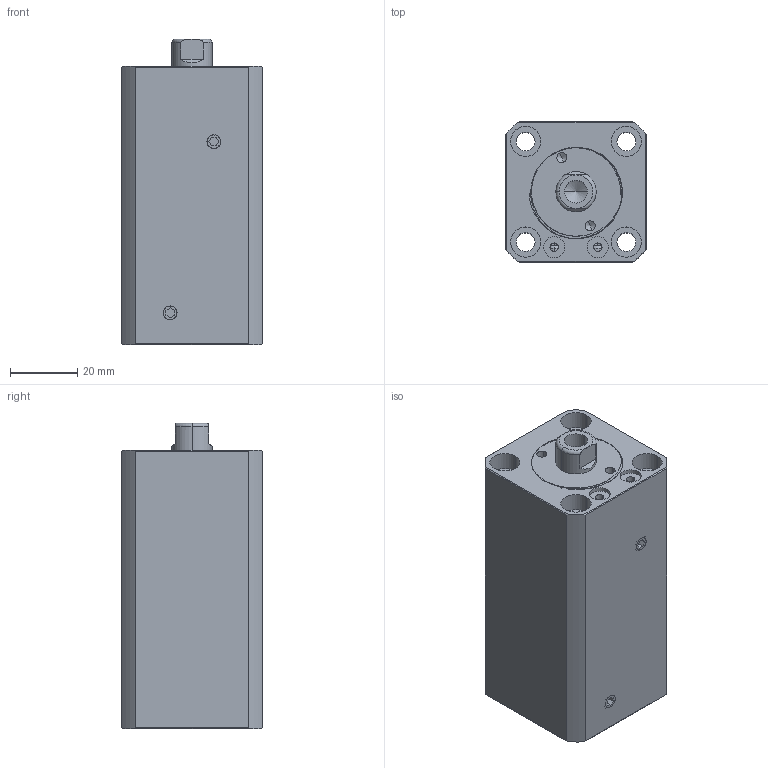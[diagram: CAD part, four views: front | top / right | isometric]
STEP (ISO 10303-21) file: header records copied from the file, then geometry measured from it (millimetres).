
FILE_DESCRIPTION (( 'STEP AP214' ), '1' );
FILE_NAME ('chtb-sdma20x40n_asm.STEP', '2018-05-18T05:53:27', ( '' ), ( '' ), 'SwSTEP 2.0', 'SolidWorks 2016', '' );
FILE_SCHEMA (( 'AUTOMOTIVE_DESIGN' ));
Length unit declared in the file: millimetre
Products named in the file (5): socket set screw flat point_iso_ISO 4026 - M5 x 5-N; QG_3; CHTB-SDMA20X40NHSG; CHTB-SDMA20X40NBT; chtb-sdma20x40n_asm
Assembly tree (5 placements, depth 2):
  chtb-sdma20x40n_asm
    CHTB-SDMA20X40NBT
    CHTB-SDMA20X40NHSG
    QG_3
    socket set screw flat point_iso_ISO 4026 - M5 x 5-N  x2
Bounding box: 42 x 42 x 91 mm (x, y, z)
Volume: 124210.7 mm3; surface area: 38329.5 mm2
Topology: 5 solids, 5 shells, 232 faces, 602 edges, 396 vertices
Faces by surface type: cylinder 111, plane 61, torus 25, bspline 21, cone 14
Entity records: 12042 total; most frequent: CARTESIAN_POINT 6742, ORIENTED_EDGE 1128, DIRECTION 1000, EDGE_CURVE 564, AXIS2_PLACEMENT_3D 415, VERTEX_POINT 376, EDGE_LOOP 256, ADVANCED_FACE 217
